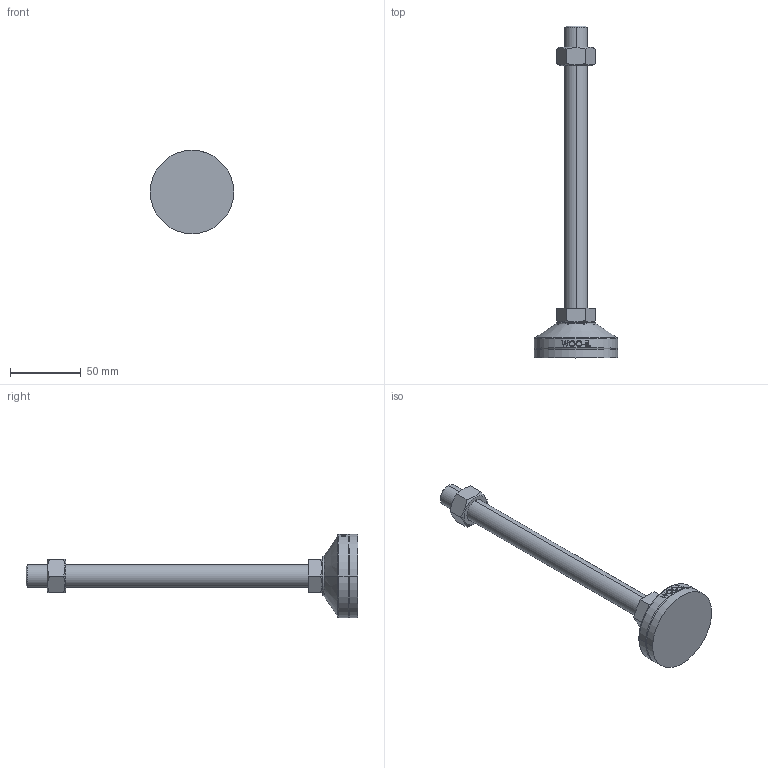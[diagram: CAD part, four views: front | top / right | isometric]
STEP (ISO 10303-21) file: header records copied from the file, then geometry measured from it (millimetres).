
FILE_DESCRIPTION (( 'STEP AP214' ), '1' );
FILE_NAME ('MFR59-M16-200.step', '2021-01-15T08:02:00', ( '' ), ( '' ), 'SwSTEP 2.0', 'SolidWorks 2019', '' );
FILE_SCHEMA (( 'AUTOMOTIVE_DESIGN' ));
Length unit declared in the file: millimetre
Products named in the file (2): MFR59-M16-200
Bounding box: 59 x 235 x 59 mm (x, y, z)
Volume: 103545.1 mm3; surface area: 27970.9 mm2
Topology: 4 solids, 4 shells, 103 faces, 235 edges, 150 vertices
Faces by surface type: plane 49, cylinder 18, bspline 16, cone 14, torus 6
Entity records: 4363 total; most frequent: CARTESIAN_POINT 2090, ORIENTED_EDGE 470, DIRECTION 417, EDGE_CURVE 235, AXIS2_PLACEMENT_3D 159, VERTEX_POINT 150, EDGE_LOOP 115, FACE_OUTER_BOUND 103
